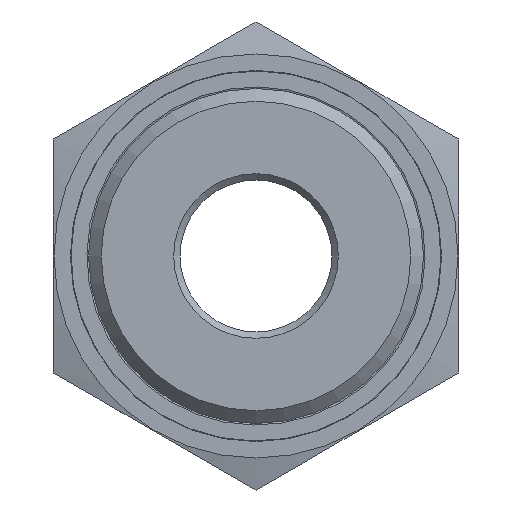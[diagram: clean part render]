
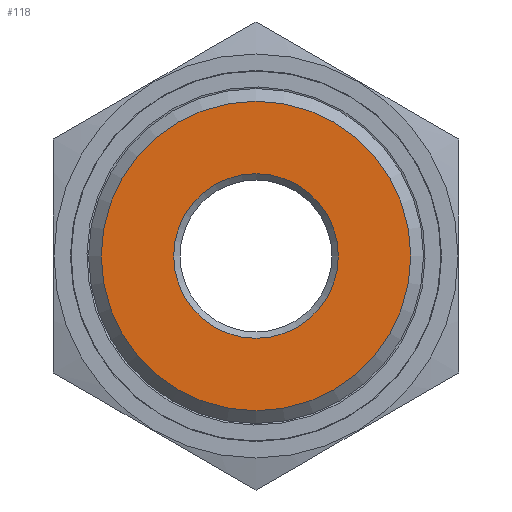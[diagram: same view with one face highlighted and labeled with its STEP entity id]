
A CAD part, left-side view. The second image highlights one B-rep face of the part: STEP entity #118.
In plain terms, the highlighted planar face has unit normal (-1, 0, 0).
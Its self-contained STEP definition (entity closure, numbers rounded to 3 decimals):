
#118 = ADVANCED_FACE( '', ( #240, #241 ), #242, .T. );
#240 = FACE_BOUND( '', #392, .T. );
#241 = FACE_OUTER_BOUND( '', #393, .T. );
#242 = PLANE( '', #394 );
#392 = EDGE_LOOP( '', ( #554 ) );
#393 = EDGE_LOOP( '', ( #555 ) );
#394 = AXIS2_PLACEMENT_3D( '', #556, #557, #558 );
#554 = ORIENTED_EDGE( '', *, *, #768, .T. );
#555 = ORIENTED_EDGE( '', *, *, #769, .T. );
#556 = CARTESIAN_POINT( '', ( -38., -16., -9.238 ) );
#557 = DIRECTION( '', ( -1., 0., 0. ) );
#558 = DIRECTION( '', ( 0., -1., 0. ) );
#768 = EDGE_CURVE( '', #870, #870, #871, .F. );
#769 = EDGE_CURVE( '', #872, #872, #873, .T. );
#870 = VERTEX_POINT( '', #1032 );
#871 = CIRCLE( '', #1033, 6.5 );
#872 = VERTEX_POINT( '', #1034 );
#873 = CIRCLE( '', #1035, 12.221 );
#1032 = CARTESIAN_POINT( '', ( -38., -6.5, 0. ) );
#1033 = AXIS2_PLACEMENT_3D( '', #1214, #1215, #1216 );
#1034 = CARTESIAN_POINT( '', ( -38., -12.221, 0. ) );
#1035 = AXIS2_PLACEMENT_3D( '', #1217, #1218, #1219 );
#1214 = CARTESIAN_POINT( '', ( -38., 0., 0. ) );
#1215 = DIRECTION( '', ( -1., 0., 0. ) );
#1216 = DIRECTION( '', ( 0., -1., 0. ) );
#1217 = CARTESIAN_POINT( '', ( -38., 0., 0. ) );
#1218 = DIRECTION( '', ( -1., 0., 0. ) );
#1219 = DIRECTION( '', ( 0., -1., 0. ) );
